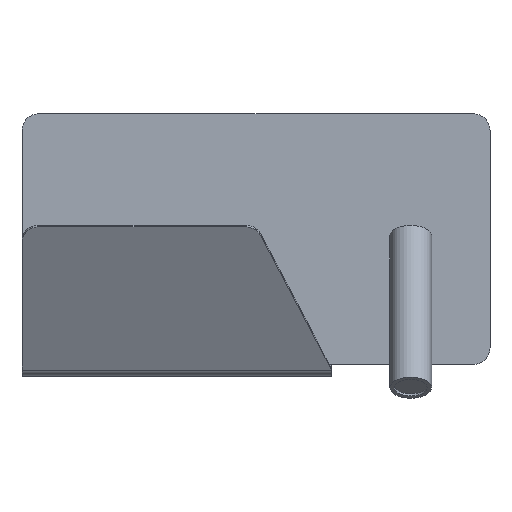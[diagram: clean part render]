
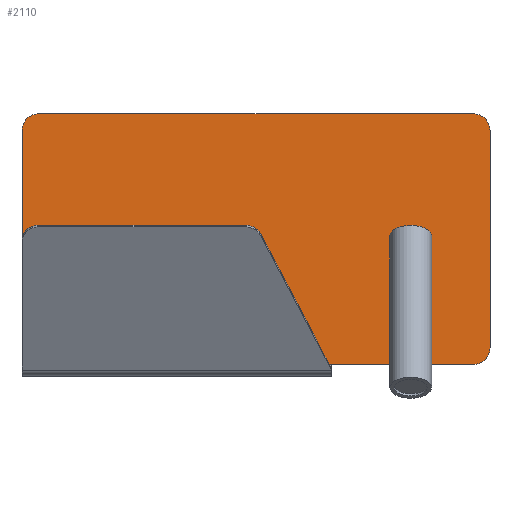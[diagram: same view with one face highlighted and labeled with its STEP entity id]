
A CAD part, top view. The second image highlights one B-rep face of the part: STEP entity #2110.
In plain terms, the highlighted planar face has unit normal (0, 0, 1).
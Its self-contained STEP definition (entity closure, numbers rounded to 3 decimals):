
#37=FACE_BOUND('',#386,.T.);
#132=PLANE('',#2320);
#249=FACE_OUTER_BOUND('',#385,.T.);
#385=EDGE_LOOP('',(#1943,#1944,#1945,#1946,#1947,#1948,#1949));
#386=EDGE_LOOP('',(#1950,#1951,#1952,#1953));
#569=LINE('',#3474,#778);
#573=LINE('',#3482,#782);
#576=LINE('',#3488,#785);
#579=LINE('',#3493,#788);
#581=LINE('',#3498,#790);
#586=LINE('',#3512,#795);
#590=LINE('',#3524,#799);
#593=LINE('',#3530,#802);
#778=VECTOR('',#2870,304.8);
#782=VECTOR('',#2876,304.8);
#785=VECTOR('',#2881,304.8);
#788=VECTOR('',#2886,304.8);
#790=VECTOR('',#2890,304.8);
#795=VECTOR('',#2903,304.8);
#799=VECTOR('',#2915,304.8);
#802=VECTOR('',#2920,304.8);
#881=CIRCLE('',#2308,10.);
#883=CIRCLE('',#2312,10.);
#885=CIRCLE('',#2317,10.);
#1059=VERTEX_POINT('',#3472);
#1060=VERTEX_POINT('',#3473);
#1063=VERTEX_POINT('',#3481);
#1065=VERTEX_POINT('',#3487);
#1067=VERTEX_POINT('',#3496);
#1068=VERTEX_POINT('',#3497);
#1071=VERTEX_POINT('',#3505);
#1073=VERTEX_POINT('',#3511);
#1075=VERTEX_POINT('',#3517);
#1077=VERTEX_POINT('',#3523);
#1079=VERTEX_POINT('',#3529);
#1339=EDGE_CURVE('',#1059,#1060,#569,.T.);
#1343=EDGE_CURVE('',#1063,#1059,#573,.T.);
#1346=EDGE_CURVE('',#1065,#1063,#576,.T.);
#1349=EDGE_CURVE('',#1060,#1065,#579,.T.);
#1351=EDGE_CURVE('',#1067,#1068,#581,.T.);
#1355=EDGE_CURVE('',#1071,#1067,#881,.T.);
#1358=EDGE_CURVE('',#1073,#1071,#586,.T.);
#1361=EDGE_CURVE('',#1075,#1073,#883,.T.);
#1364=EDGE_CURVE('',#1077,#1075,#590,.T.);
#1367=EDGE_CURVE('',#1079,#1077,#593,.T.);
#1370=EDGE_CURVE('',#1068,#1079,#885,.T.);
#1943=ORIENTED_EDGE('',*,*,#1370,.T.);
#1944=ORIENTED_EDGE('',*,*,#1367,.T.);
#1945=ORIENTED_EDGE('',*,*,#1364,.T.);
#1946=ORIENTED_EDGE('',*,*,#1361,.T.);
#1947=ORIENTED_EDGE('',*,*,#1358,.T.);
#1948=ORIENTED_EDGE('',*,*,#1355,.T.);
#1949=ORIENTED_EDGE('',*,*,#1351,.T.);
#1950=ORIENTED_EDGE('',*,*,#1349,.T.);
#1951=ORIENTED_EDGE('',*,*,#1346,.T.);
#1952=ORIENTED_EDGE('',*,*,#1343,.T.);
#1953=ORIENTED_EDGE('',*,*,#1339,.T.);
#2110=ADVANCED_FACE('',(#249,#37),#132,.T.);
#2308=AXIS2_PLACEMENT_3D('',#3506,#2896,#2897);
#2312=AXIS2_PLACEMENT_3D('',#3518,#2908,#2909);
#2317=AXIS2_PLACEMENT_3D('',#3535,#2925,#2926);
#2320=AXIS2_PLACEMENT_3D('',#3538,#2931,#2932);
#2870=DIRECTION('',(1.,0.,0.));
#2876=DIRECTION('',(0.,1.,0.));
#2881=DIRECTION('',(-1.,0.,0.));
#2886=DIRECTION('',(0.,-1.,0.));
#2890=DIRECTION('',(-1.,0.,0.));
#2896=DIRECTION('center_axis',(0.,0.,1.));
#2897=DIRECTION('ref_axis',(1.,0.,0.));
#2903=DIRECTION('',(0.,1.,0.));
#2908=DIRECTION('center_axis',(0.,0.,1.));
#2909=DIRECTION('ref_axis',(1.,0.,0.));
#2915=DIRECTION('',(1.,0.,0.));
#2920=DIRECTION('',(0.,-1.,0.));
#2925=DIRECTION('center_axis',(0.,0.,1.));
#2926=DIRECTION('ref_axis',(1.,0.,0.));
#2931=DIRECTION('center_axis',(0.,0.,1.));
#2932=DIRECTION('ref_axis',(0.,1.,0.));
#3472=CARTESIAN_POINT('',(86.13,-25.044,27.));
#3473=CARTESIAN_POINT('',(91.13,-25.044,27.));
#3474=CARTESIAN_POINT('',(86.13,-25.044,27.));
#3481=CARTESIAN_POINT('',(86.13,-45.044,27.));
#3482=CARTESIAN_POINT('',(86.13,-45.044,27.));
#3487=CARTESIAN_POINT('',(91.13,-45.044,27.));
#3488=CARTESIAN_POINT('',(91.13,-45.044,27.));
#3493=CARTESIAN_POINT('',(91.13,-25.044,27.));
#3496=CARTESIAN_POINT('',(125.999,74.973,27.));
#3497=CARTESIAN_POINT('',(-134.001,74.973,27.));
#3498=CARTESIAN_POINT('',(125.999,74.973,27.));
#3505=CARTESIAN_POINT('',(135.999,64.973,27.));
#3506=CARTESIAN_POINT('Origin',(125.999,64.973,27.));
#3511=CARTESIAN_POINT('',(135.999,-64.973,27.));
#3512=CARTESIAN_POINT('',(135.999,-64.973,27.));
#3517=CARTESIAN_POINT('',(125.999,-74.973,27.));
#3518=CARTESIAN_POINT('Origin',(125.999,-64.973,27.));
#3523=CARTESIAN_POINT('',(-144.001,-74.973,27.));
#3524=CARTESIAN_POINT('',(-144.001,-74.973,27.));
#3529=CARTESIAN_POINT('',(-144.001,64.973,27.));
#3530=CARTESIAN_POINT('',(-144.001,64.973,27.));
#3535=CARTESIAN_POINT('Origin',(-134.001,64.973,27.));
#3538=CARTESIAN_POINT('Origin',(-124.001,64.973,27.));
